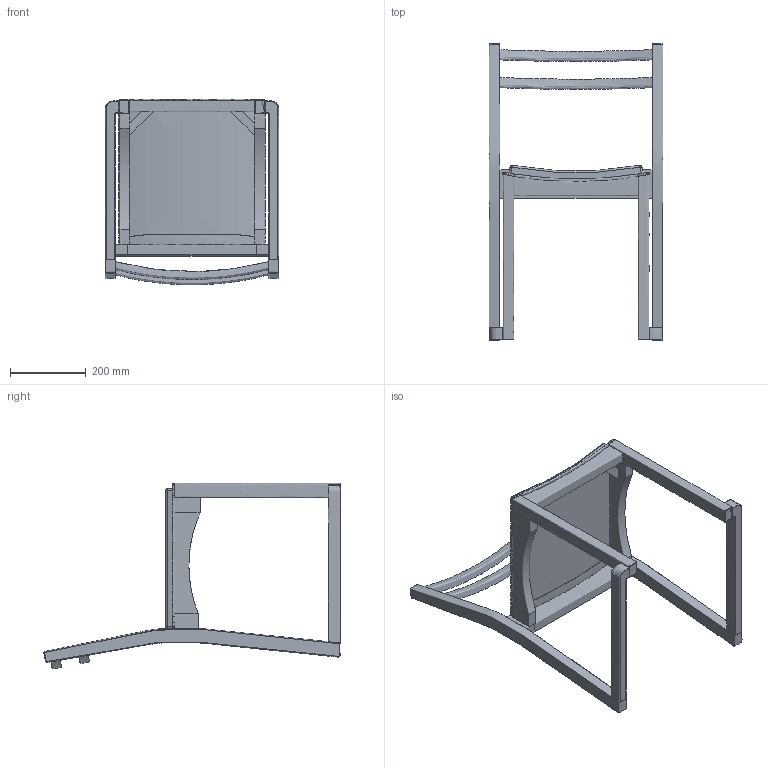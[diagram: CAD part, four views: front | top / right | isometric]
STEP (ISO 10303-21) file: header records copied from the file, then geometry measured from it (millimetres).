
FILE_DESCRIPTION(/* description */ (''),/* implementation_level */ '2;1');
FILE_NAME(/* name */ 'kinoshita_abord_c131a.step',/* time_stamp */ '2026-09-25T16:31:49+09:00',/* author */ (''),/* organization */ (''),/* preprocessor_version */ 'ST-DEVELOPER v20.1',/* originating_system */ 'Autodesk Translation Framework v15.8.0.0',/* authorisation */ '');
FILE_SCHEMA (('AUTOMOTIVE_DESIGN { 1 0 10303 214 3 1 1 }'));
Products named in the file (1): 2026-09-25-15-44-22-772
Bounding box: 460 x 783.43 x 491.11 mm (x, y, z)
Volume: 4859848.3 mm3; surface area: 1327174.3 mm2
Topology: 7 solids, 127 shells, 171 faces, 574 edges, 526 vertices
Faces by surface type: bspline 125, plane 41, cylinder 5
Entity records: 52785 total; most frequent: CARTESIAN_POINT 48996, ORIENTED_EDGE 678, EDGE_CURVE 569, VERTEX_POINT 526, B_SPLINE_CURVE_WITH_KNOTS 477, DIRECTION 200, EDGE_LOOP 177, FACE_OUTER_BOUND 171
